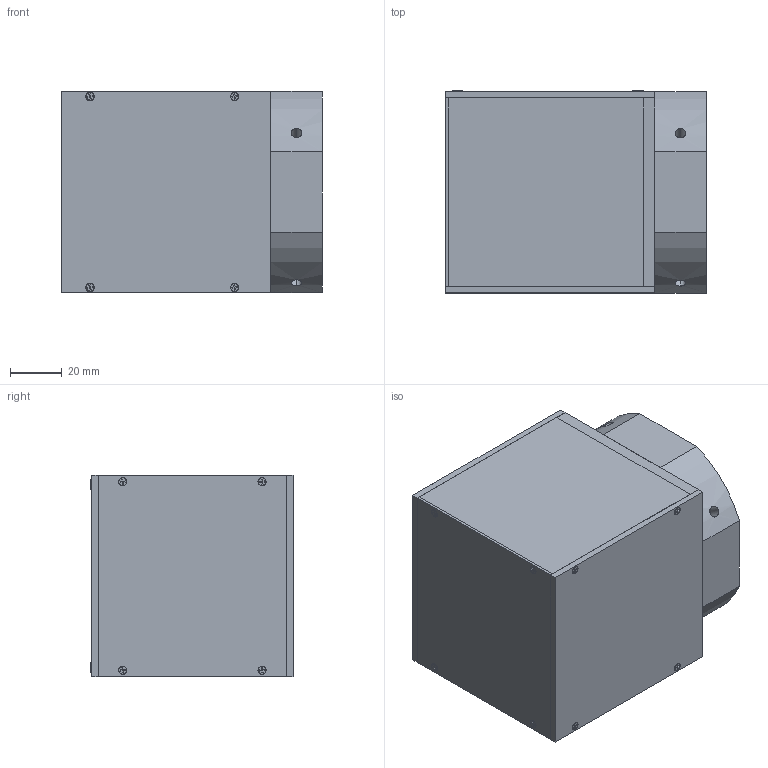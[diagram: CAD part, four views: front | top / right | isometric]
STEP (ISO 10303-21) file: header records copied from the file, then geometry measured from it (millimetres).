
FILE_DESCRIPTION (( 'STEP AP214' ), '1' );
FILE_NAME ('HLS411DWT01_3D_RAU-TL60-M2.STEP', '2020-05-05T05:56:15', ( '' ), ( '' ), 'SwSTEP 2.0', 'SolidWorks 2019', '' );
FILE_SCHEMA (( 'AUTOMOTIVE_DESIGN' ));
Length unit declared in the file: millimetre
Products named in the file (13): MXB4508; HLS411DWT01_3D_RAU-TL60-M2; REAR PANEL; FRONT PANEL; FRAME; COVER; LENS ADAPTER; SIDE PANEL 2; COVER GLASS; MXB8686; HALF MIRROR; SIDE PANEL 1; MXB6332
Assembly tree (33 placements, depth 2):
  HLS411DWT01_3D_RAU-TL60-M2
    SIDE PANEL 1
    COVER GLASS
    FRAME
    FRONT PANEL
    HALF MIRROR
    LENS ADAPTER
    REAR PANEL
    SIDE PANEL 2
    COVER
    MXB4508  x16
    MXB6332  x4
    MXB8686  x4
Bounding box: 101 x 78.3 x 78 mm (x, y, z)
Volume: 142348.2 mm3; surface area: 103922.1 mm2
Topology: 33 solids, 33 shells, 809 faces, 1992 edges, 1260 vertices
Faces by surface type: plane 473, cylinder 184, cone 144, sphere 8
Entity records: 13078 total; most frequent: CARTESIAN_POINT 2463, DIRECTION 2158, ORIENTED_EDGE 1912, EDGE_CURVE 956, AXIS2_PLACEMENT_3D 781, VERTEX_POINT 606, LINE 596, VECTOR 596
